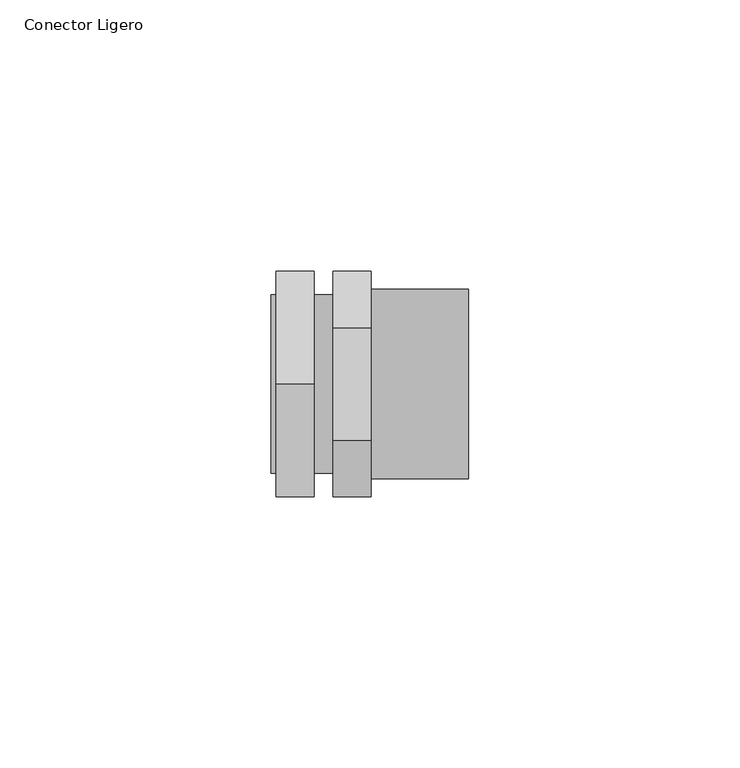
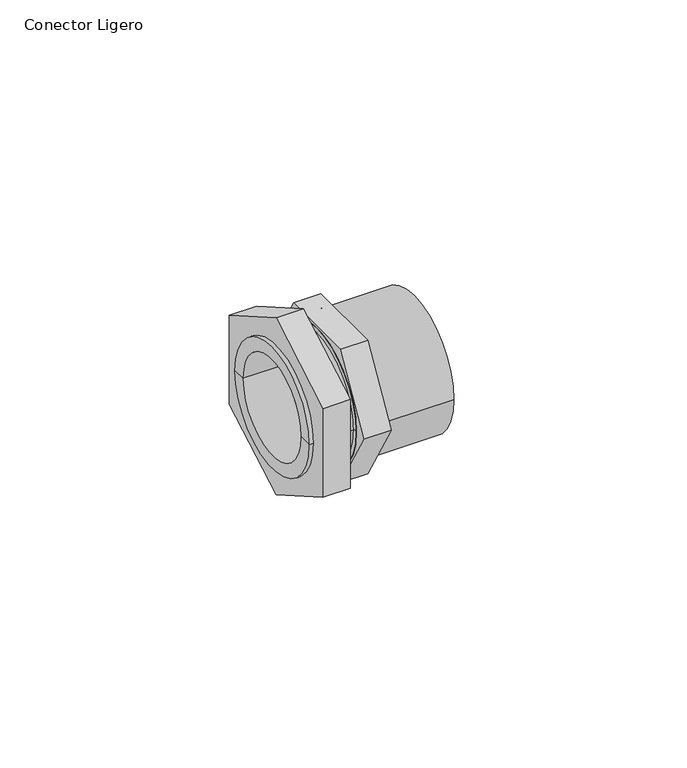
"""IFC4 building model written with IfcOpenShell, lengths in millimetres: cable carrier fitting geometry, AmancoWavin_Unionesdetubería_ConduitZNousarconector : Conector Ligero."""

import ifcopenshell
import ifcopenshell.guid

model = None  # the IFC model being written
_history = None  # IfcOwnerHistory: only IFC2X3 demands one
_inside = {}  # id of a spatial element -> (the spatial element, [elements in it])
_under = {}  # id of a project, library or spatial element -> (it, [spatial elements below it])
_declared = {}  # id of a project -> (the project, [libraries it declares])
_typed = {}  # id of a type object -> (the type object, [elements of that type])
_made_of = {}  # id of a material, layer set ... -> (it, [elements and type objects made of it])


def new_model(schema):
    """Start an empty IFC model of exactly this schema.

    Asked for "IFC4X3", IfcOpenShell would pick the latest addendum, in which some entities
    have other attributes; the version numbers below select the first issue.
    IFC2X3 requires an IfcOwnerHistory on every rooted entity: one is made here for all.
    """
    global model, _history
    if schema == "IFC4X3":
        model = ifcopenshell.file(schema_version=(4, 3, 0, 0))
    else:
        model = ifcopenshell.file(schema=schema)
    _inside.clear()
    _under.clear()
    _declared.clear()
    _typed.clear()
    _made_of.clear()
    _history = None
    if model.schema == "IFC2X3":
        org = make("IfcOrganization", Name="unknown")
        user = make(
            "IfcPersonAndOrganization",
            ThePerson=make("IfcPerson", FamilyName="unknown"),
            TheOrganization=org,
        )
        app = make(
            "IfcApplication",
            ApplicationDeveloper=org,
            Version="unknown",
            ApplicationFullName="unknown",
            ApplicationIdentifier="unknown",
        )
        _history = make(
            "IfcOwnerHistory",
            OwningUser=user,
            OwningApplication=app,
            ChangeAction="ADDED",
            CreationDate=0,
        )
    return model


def make(cls, **values):
    """One entity of the class cls with the attributes given. An attribute that is None is left unset."""
    return model.create_entity(
        cls, **{name: value for name, value in values.items() if value is not None}
    )


def rooted(cls, **values):
    """An entity with a GlobalId (a new one), such as an element, a storey or a relation."""
    return make(cls, GlobalId=ifcopenshell.guid.new(), OwnerHistory=_history, **values)


def si_unit(unit_type, name, prefix=None):
    """IfcSIUnit, for example si_unit("LENGTHUNIT", "METRE", prefix="MILLI")."""
    return make("IfcSIUnit", UnitType=unit_type, Prefix=prefix, Name=name)


def assignment(units):
    """IfcUnitAssignment: the units of a project."""
    return None if units is None else make("IfcUnitAssignment", Units=units)


def point(xyz):
    """IfcCartesianPoint."""
    return None if xyz is None else make("IfcCartesianPoint", Coordinates=xyz)


def direction(xyz):
    """IfcDirection."""
    return None if xyz is None else make("IfcDirection", DirectionRatios=xyz)


def frame(location, z_axis=None, x_axis=None):
    """IfcAxis2Placement3D, a coordinate frame: its origin and axes. An axis left out is left unset."""
    return make(
        "IfcAxis2Placement3D",
        Location=point(location),
        Axis=direction(z_axis),
        RefDirection=direction(x_axis),
    )


def frame_2d(location, x_axis=None):
    """IfcAxis2Placement2D, a coordinate frame in the plane: its origin and x axis."""
    return make(
        "IfcAxis2Placement2D", Location=point(location), RefDirection=direction(x_axis)
    )


def origin():
    """The frame at (0, 0, 0) with its axes left unset."""
    return frame((0.0, 0.0, 0.0))


def origin_2d():
    """The frame at (0, 0) in the plane with its x axis left unset."""
    return frame_2d((0.0, 0.0))


def place(relative_to, where):
    """IfcLocalPlacement: puts the frame where relative to a parent placement (None: the world)."""
    return make(
        "IfcLocalPlacement", PlacementRelTo=relative_to, RelativePlacement=where
    )


def context(
    kind, dimensions, precision=None, world=None, true_north=None, identifier=None
):
    """IfcGeometricRepresentationContext, for example the 3D "Model" context."""
    return make(
        "IfcGeometricRepresentationContext",
        ContextIdentifier=identifier,
        ContextType=kind,
        CoordinateSpaceDimension=dimensions,
        Precision=precision,
        WorldCoordinateSystem=world,
        TrueNorth=true_north,
    )


def project(units=None, contexts=None):
    """IfcProject with its units and contexts."""
    return rooted(
        "IfcProject",
        Name="project",
        RepresentationContexts=contexts,
        UnitsInContext=assignment(units),
    )


def spatial(cls, under=None, at=None, **own):
    """A site, building, storey or space (cls), placed at a placement, below another one or the project."""
    s = rooted(cls, ObjectPlacement=at, **own)
    if under is not None:
        _under.setdefault(under.id(), (under, []))[1].append(s)
    return s


def polyline(points):
    """IfcPolyline through the points."""
    return make("IfcPolyline", Points=[point(p) for p in points])


def circle_curve(where, radius):
    """IfcCircle in the frame where."""
    return make("IfcCircle", Position=where, Radius=radius)


def trimmed(basis, trim1, trim2, sense, master):
    """IfcTrimmedCurve: the piece of a basis curve between two trims."""
    return make(
        "IfcTrimmedCurve",
        BasisCurve=basis,
        Trim1=trim1,
        Trim2=trim2,
        SenseAgreement=sense,
        MasterRepresentation=master,
    )


def segment(curve, same_sense, transition):
    """IfcCompositeCurveSegment."""
    return make(
        "IfcCompositeCurveSegment",
        Transition=transition,
        SameSense=same_sense,
        ParentCurve=curve,
    )


def composite_curve(segments, self_intersect=None):
    """IfcCompositeCurve: segments joined end to end."""
    return make("IfcCompositeCurve", Segments=segments, SelfIntersect=self_intersect)


def outline(outer, holes=None, kind="AREA"):
    """IfcArbitraryClosedProfileDef: a profile drawn as a closed curve; with holes, ...WithVoids."""
    if holes is None:
        return make("IfcArbitraryClosedProfileDef", ProfileType=kind, OuterCurve=outer)
    return make(
        "IfcArbitraryProfileDefWithVoids",
        ProfileType=kind,
        OuterCurve=outer,
        InnerCurves=holes,
    )


def extrude(swept, where, along, depth):
    """IfcExtrudedAreaSolid: the profile swept, set in the frame where, extruded along a direction by depth."""
    return make(
        "IfcExtrudedAreaSolid",
        SweptArea=swept,
        Position=where,
        ExtrudedDirection=direction(along),
        Depth=depth,
    )


def shape(context_of_items, identifier, shape_type, items):
    """IfcShapeRepresentation: the items that make up one representation, for example the "Body"."""
    return make(
        "IfcShapeRepresentation",
        ContextOfItems=context_of_items,
        RepresentationIdentifier=identifier,
        RepresentationType=shape_type,
        Items=items,
    )


def source(mapping_origin, context_of_items, identifier, shape_type, items):
    """IfcRepresentationMap: a shape defined once, which mapped items show again and again."""
    return make(
        "IfcRepresentationMap",
        MappingOrigin=mapping_origin,
        MappedRepresentation=shape(context_of_items, identifier, shape_type, items),
    )


def transform(
    local_origin,
    x_axis=None,
    y_axis=None,
    z_axis=None,
    scale=None,
    scale2=None,
    scale3=None,
    uniform=True,
):
    """IfcCartesianTransformationOperator3D, or its non-uniform kind. x_axis, y_axis, z_axis: its Axis1, 2, 3."""
    if uniform:
        return make(
            "IfcCartesianTransformationOperator3D",
            Axis1=direction(x_axis),
            Axis2=direction(y_axis),
            LocalOrigin=point(local_origin),
            Scale=scale,
            Axis3=direction(z_axis),
        )
    return make(
        "IfcCartesianTransformationOperator3DnonUniform",
        Axis1=direction(x_axis),
        Axis2=direction(y_axis),
        LocalOrigin=point(local_origin),
        Scale=scale,
        Axis3=direction(z_axis),
        Scale2=scale2,
        Scale3=scale3,
    )


def mapped(mapping_source, mapping_target):
    """IfcMappedItem: shows the shape of a source again, moved by a transform."""
    return make(
        "IfcMappedItem", MappingSource=mapping_source, MappingTarget=mapping_target
    )


def made_of(thing, what):
    """Note that an element or type object is made of a material, layer set ...; save() writes the relation."""
    if what is not None:
        _made_of.setdefault(what.id(), (what, []))[1].append(thing)
    return thing


def element(
    cls,
    number,
    at=None,
    inside=None,
    cuts=None,
    type_object=None,
    material=None,
    context=None,
    identifier="Body",
    shape_type=None,
    held_by="IfcProductDefinitionShape",
    body=None,
    shapes=None,
    **own,
):
    """One element of the class cls, such as IfcWall. Its Tag is "e" and its number.

    at: its placement. inside: the storey or other place that contains it. cuts: it is an
    opening in that element (IfcRelVoidsElement). A single representation is given by context,
    identifier, shape_type and body (its items); several are given by shapes. held_by: the class
    of the entity that holds the representations. save() writes the other relations.
    """
    e = rooted(cls, Tag="e%d" % number, ObjectPlacement=at, **own)
    if body is not None:
        shapes = [shape(context, identifier, shape_type, body)]
    if shapes is not None:
        e.Representation = make(held_by, Representations=shapes)
    if inside is not None:
        _inside.setdefault(inside.id(), (inside, []))[1].append(e)
    if cuts is not None:
        rooted(
            "IfcRelVoidsElement", RelatingBuildingElement=cuts, RelatedOpeningElement=e
        )
    if type_object is not None:
        _typed.setdefault(type_object.id(), (type_object, []))[1].append(e)
    return made_of(e, material)


def aggregate(whole, parts):
    """IfcRelAggregates: a whole, such as a stair, and the parts it consists of."""
    return rooted("IfcRelAggregates", RelatingObject=whole, RelatedObjects=parts)


def save(model, path):
    """Write the relations noted so far, then the file.

    IfcRelAggregates (storeys below a building ...), IfcRelContainedInSpatialStructure (elements
    in a storey), IfcRelDefinesByType, IfcRelAssociatesMaterial and IfcRelDeclares: one each for
    every whole, place, type object, material and project.
    """
    for whole, parts in _under.values():
        aggregate(whole, parts)
    for where, things in _inside.values():
        rooted(
            "IfcRelContainedInSpatialStructure",
            RelatedElements=things,
            RelatingStructure=where,
        )
    for kind, things in _typed.values():
        rooted("IfcRelDefinesByType", RelatedObjects=things, RelatingType=kind)
    for what, things in _made_of.values():
        rooted("IfcRelAssociatesMaterial", RelatedObjects=things, RelatingMaterial=what)
    for by, libraries in _declared.values():
        rooted("IfcRelDeclares", RelatingContext=by, RelatedDefinitions=libraries)
    model.write(path)


def plane_surface(at):
    """IfcPlane: the flat surface through the origin of the frame at, square to its z axis."""
    return make("IfcPlane", Position=at)


def cylinder_surface(at, radius):
    """IfcCylindricalSurface: all points at the distance radius from the z axis of the frame at."""
    return make("IfcCylindricalSurface", Position=at, Radius=radius)


def revolved_surface(curve, axis_point, axis_direction):
    """IfcSurfaceOfRevolution: the curve turned about the line through axis_point along axis_direction."""
    return make(
        "IfcSurfaceOfRevolution",
        SweptCurve=make("IfcArbitraryOpenProfileDef", ProfileType="CURVE", Curve=curve),
        AxisPosition=make("IfcAxis1Placement", Location=point(axis_point), Axis=direction(axis_direction)),
    )


def advanced_brep(points, edges, surfaces, faces):
    """IfcAdvancedBrep: a solid bounded by faces that lie on surfaces and meet in shared edges.

    An edge is (start, end): straight between two places in points (the first is 0);
    or (start, end, curve); or (start, end, curve, False) where it runs against its curve.
    A face is (place in surfaces, loops), or (place, loops, False) where it looks against
    its surface's normal. A loop lists edges by number (the first is 1), with a minus sign
    where the edge is run from its end to its start. The first loop is the outer one.
    """
    corners = [point(p) for p in points]
    vertices = [make("IfcVertexPoint", VertexGeometry=c) for c in corners]
    made = []
    for start, end, *more in edges:
        made.append(
            make(
                "IfcEdgeCurve",
                EdgeStart=vertices[start],
                EdgeEnd=vertices[end],
                EdgeGeometry=more[0] if more else make("IfcPolyline", Points=[corners[start], corners[end]]),
                SameSense=more[1] if len(more) > 1 else True,
            )
        )
    hull = []
    for where, loops, *sense in faces:
        bounds = []
        for j, loop in enumerate(loops):
            ring = [make("IfcOrientedEdge", EdgeElement=made[abs(k) - 1], Orientation=k > 0) for k in loop]
            bounds.append(
                make(
                    "IfcFaceOuterBound" if j == 0 else "IfcFaceBound",
                    Bound=make("IfcEdgeLoop", EdgeList=ring),
                    Orientation=True,
                )
            )
        hull.append(make("IfcAdvancedFace", Bounds=bounds, FaceSurface=surfaces[where], SameSense=sense[0] if sense else True))
    return make("IfcAdvancedBrep", Outer=make("IfcClosedShell", CfsFaces=hull))


def conector_ligero_3b958732(model_context):
    return source(origin(), model_context, "Body", "SolidModel", [
        extrude(outline(polyline([(-20.825, 0.0), (-10.4125, 18.034979), (10.4125, 18.034979), (20.825, 0.0), (10.4125, -18.034979), (-10.4125, -18.034979), (-20.825, 0.0)]), holes=[composite_curve([segment(trimmed(circle_curve(origin_2d(), 17.5), [point((-17.5, 0.0))], [point((17.5, 0.0))], True, "CARTESIAN"), True, "CONTINUOUS"), segment(trimmed(circle_curve(origin_2d(), 17.5), [point((17.5, 0.0))], [point((-17.5, 0.0))], True, "CARTESIAN"), True, "CONTINUOUS")], self_intersect=False)]), frame((0.0, 0.0, 0.0), z_axis=(1.0, 0.0, 0.0), x_axis=(0.0, 1.0, 0.0)), (0.0, 0.0, 1.0), 7.0),
        advanced_brep(
        [(0.0, -17.5, 0.0), (0.0, 17.5, 0.0), (25.0, 17.5, 0.0), (25.0, -17.5, 0.0), (0.0, -15.0, 0.0), (0.0, 15.0, 0.0), (25.0, -15.0, 0.0), (25.0, 15.0, 0.0)],
        [
            (0, 1, circle_curve(frame((0.0, 0.0, 0.0), z_axis=(1.0, 0.0, 0.0), x_axis=(0.0, 1.0, 0.0)), 17.5)),
            (1, 2),
            (2, 3, circle_curve(frame((25.0, 0.0, 0.0), z_axis=(-1.0, 0.0, 0.0), x_axis=(0.0, 1.0, 0.0)), 17.5)),
            (3, 0),
            (1, 0, circle_curve(frame((0.0, 0.0, 0.0), z_axis=(1.0, 0.0, 0.0), x_axis=(0.0, 1.0, 0.0)), 17.5)),
            (3, 2, circle_curve(frame((25.0, 0.0, 0.0), z_axis=(-1.0, 0.0, 0.0), x_axis=(0.0, 1.0, 0.0)), 17.5)),
            (4, 5, circle_curve(frame((0.0, 0.0, 0.0), z_axis=(1.0, 0.0, 0.0), x_axis=(0.0, 1.0, 0.0)), 15.0)),
            (5, 1),
            (0, 4),
            (5, 4, circle_curve(frame((0.0, 0.0, 0.0), z_axis=(1.0, 0.0, 0.0), x_axis=(0.0, 1.0, 0.0)), 15.0)),
            (6, 7, circle_curve(frame((25.0, 0.0, 0.0), z_axis=(1.0, 0.0, 0.0), x_axis=(0.0, 1.0, 0.0)), 15.0)),
            (7, 5),
            (4, 6),
            (7, 6, circle_curve(frame((25.0, 0.0, 0.0), z_axis=(1.0, 0.0, 0.0), x_axis=(0.0, 1.0, 0.0)), 15.0)),
            (2, 7),
            (6, 3),
        ],
        [
            cylinder_surface(frame((2002.5, 0.0, 0.0), z_axis=(-1.0, 0.0, 0.0), x_axis=(0.0, 1.0, 0.0)), 17.5),
            plane_surface(frame((0.0, 0.0, 0.0), z_axis=(-1.0, 0.0, 0.0), x_axis=(0.0, 1.0, 0.0))),
            revolved_surface(polyline([(0.0, 15.0, 0.0), (25.0, 15.0, 0.0)]), (2002.5, 0.0, 0.0), (-1.0, 0.0, 0.0)),
            plane_surface(frame((25.0, 0.0, 0.0), z_axis=(1.0, 0.0, 0.0), x_axis=(0.0, 1.0, 0.0))),
        ],
        [
            (0, [[1, 2, 3, 4]]),
            (0, [[5, -4, 6, -2]]),
            (1, [[7, 8, -1, 9]]),
            (1, [[10, -9, -5, -8]]),
            (2, [[11, 12, -7, 13]]),
            (2, [[14, -13, -10, -12]]),
            (3, [[-3, 15, -11, 16]]),
            (3, [[-6, -16, -14, -15]]),
        ],
    ),
        extrude(outline(polyline([(20.7846097, 12.0), (20.7846097, -12.0), (0.0, -24.0), (-20.7846097, -12.0), (-20.7846097, 12.0), (0.0, 24.0), (20.7846097, 12.0)]), holes=[composite_curve([segment(trimmed(circle_curve(origin_2d(), 16.5), [point((-16.5, 0.0))], [point((16.5, 0.0))], True, "CARTESIAN"), True, "CONTINUOUS"), segment(trimmed(circle_curve(origin_2d(), 16.5), [point((16.5, 0.0))], [point((-16.5, 0.0))], True, "CARTESIAN"), True, "CONTINUOUS")], self_intersect=False)]), frame((-10.5, 0.0, 0.0), z_axis=(1.0, 0.0, 0.0), x_axis=(0.0, 1.0, 0.0)), (0.0, 0.0, 1.0), 7.0),
        advanced_brep(
        [(-11.5, -16.5, 0.0), (-11.5, 16.5, 0.0), (0.0, 16.5, 0.0), (0.0, -16.5, 0.0), (-11.5, -13.0, 0.0), (-11.5, 13.0, 0.0), (0.0, -13.0, 0.0), (0.0, 13.0, 0.0)],
        [
            (0, 1, circle_curve(frame((-11.5, 0.0, 0.0), z_axis=(1.0, 0.0, 0.0), x_axis=(0.0, 1.0, 0.0)), 16.5)),
            (1, 2),
            (2, 3, circle_curve(frame((0.0, 0.0, 0.0), z_axis=(-1.0, 0.0, 0.0), x_axis=(0.0, 1.0, 0.0)), 16.5)),
            (3, 0),
            (1, 0, circle_curve(frame((-11.5, 0.0, 0.0), z_axis=(1.0, 0.0, 0.0), x_axis=(0.0, 1.0, 0.0)), 16.5)),
            (3, 2, circle_curve(frame((0.0, 0.0, 0.0), z_axis=(-1.0, 0.0, 0.0), x_axis=(0.0, 1.0, 0.0)), 16.5)),
            (4, 5, circle_curve(frame((-11.5, 0.0, 0.0), z_axis=(1.0, 0.0, 0.0), x_axis=(0.0, 1.0, 0.0)), 13.0)),
            (5, 1),
            (0, 4),
            (5, 4, circle_curve(frame((-11.5, 0.0, 0.0), z_axis=(1.0, 0.0, 0.0), x_axis=(0.0, 1.0, 0.0)), 13.0)),
            (6, 7, circle_curve(frame((0.0, 0.0, 0.0), z_axis=(1.0, 0.0, 0.0), x_axis=(0.0, 1.0, 0.0)), 13.0)),
            (7, 5),
            (4, 6),
            (7, 6, circle_curve(frame((0.0, 0.0, 0.0), z_axis=(1.0, 0.0, 0.0), x_axis=(0.0, 1.0, 0.0)), 13.0)),
            (2, 7),
            (6, 3),
        ],
        [
            cylinder_surface(frame((1998.5, 0.0, 0.0), z_axis=(-1.0, 0.0, 0.0), x_axis=(0.0, 1.0, 0.0)), 16.5),
            plane_surface(frame((-11.5, 0.0, 0.0), z_axis=(-1.0, 0.0, 0.0), x_axis=(0.0, 1.0, 0.0))),
            revolved_surface(polyline([(-11.5, 13.0, 0.0), (0.0, 13.0, 0.0)]), (1998.5, 0.0, 0.0), (-1.0, 0.0, 0.0)),
            plane_surface(frame((0.0, 0.0, 0.0), z_axis=(1.0, 0.0, 0.0), x_axis=(0.0, 1.0, 0.0))),
        ],
        [
            (0, [[1, 2, 3, 4]]),
            (0, [[5, -4, 6, -2]]),
            (1, [[7, 8, -1, 9]]),
            (1, [[10, -9, -5, -8]]),
            (2, [[11, 12, -7, 13]]),
            (2, [[14, -13, -10, -12]]),
            (3, [[-3, 15, -11, 16]]),
            (3, [[-6, -16, -14, -15]]),
        ],
    ),
    ])


if __name__ == "__main__":
    model = new_model("IFC4")
    model_context = context("Model", 3, world=origin())
    ifc_project = project(units=[si_unit("LENGTHUNIT", "METRE", prefix="MILLI")], contexts=[model_context])
    site = spatial("IfcSite", under=ifc_project)
    building = spatial("IfcBuilding", under=site)
    placement = place(None, origin())
    conector_ligero_shape = conector_ligero_3b958732(model_context)
    element("IfcCableCarrierFitting", 1, ObjectType="AmancoWavin_Unionesdetubería_ConduitZNousarconector : Conector Ligero", at=placement, inside=building, context=model_context, shape_type="MappedRepresentation", body=[
        mapped(conector_ligero_shape, transform((0.0, 0.0, 0.0), x_axis=(1.0, 0.0, 0.0), y_axis=(0.0, 1.0, 0.0), z_axis=(0.0, 0.0, 1.0))),
    ])
    save(model, "model.ifc")
